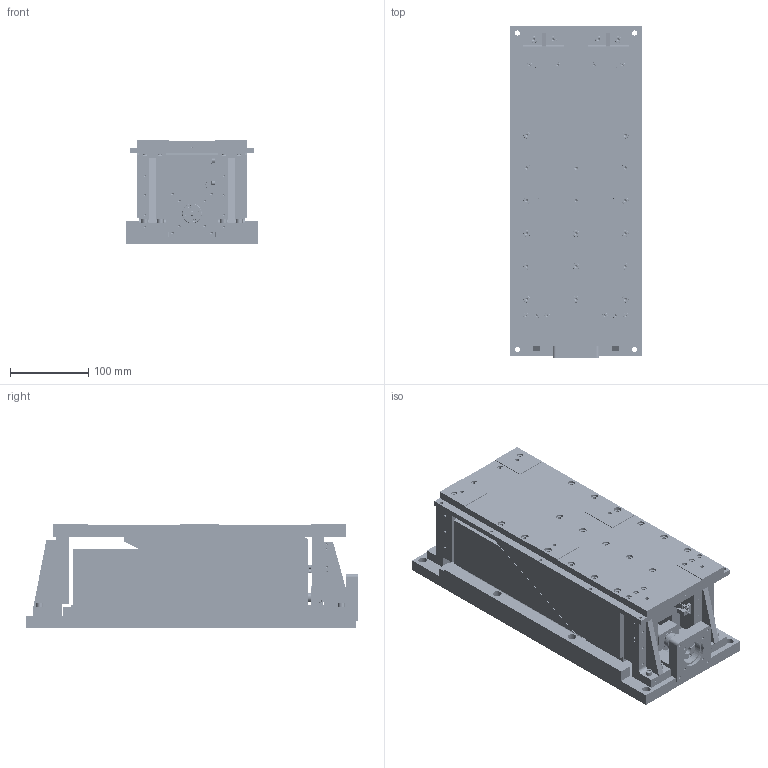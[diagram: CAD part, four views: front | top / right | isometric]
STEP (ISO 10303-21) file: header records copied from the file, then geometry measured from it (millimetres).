
FILE_DESCRIPTION (( 'STEP AP203' ), '1' );
FILE_NAME ('M1911-010-A2.STEP', '2020-01-05T04:47:37', ( '微软用户' ), ( '微软中国' ), 'SwSTEP 2.0', 'SolidWorks 2017', '' );
FILE_SCHEMA (( 'CONFIG_CONTROL_DESIGN' ));
Products named in the file (1): M1911-010-A2
Bounding box: 170 x 425 x 133 mm (x, y, z)
Volume: 6294015.5 mm3; surface area: 976710.7 mm2
Topology: 228 solids, 228 shells, 13658 faces, 33229 edges, 20145 vertices
Faces by surface type: cone 4653, plane 4267, cylinder 3957, torus 776, bspline 5
Entity records: 397743 total; most frequent: DIRECTION 75582, CARTESIAN_POINT 67979, ORIENTED_EDGE 65286, EDGE_CURVE 32643, AXIS2_PLACEMENT_3D 29538, VERTEX_POINT 20145, LINE 16506, VECTOR 16506
